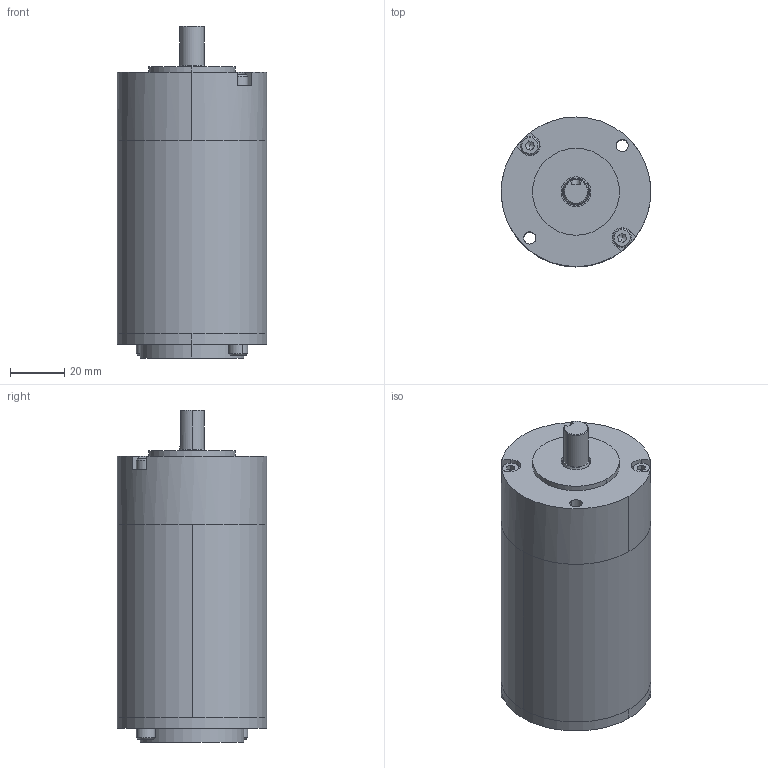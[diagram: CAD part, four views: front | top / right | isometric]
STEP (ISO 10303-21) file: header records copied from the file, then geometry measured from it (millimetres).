
FILE_DESCRIPTION (( 'STEP AP214' ), '1' );
FILE_NAME ('PA100-0.8 MS.STEP', '2013-11-21T09:42:05', ( '' ), ( '' ), 'SwSTEP 2.0', 'SolidWorks 2013', '' );
FILE_SCHEMA (( 'AUTOMOTIVE_DESIGN' ));
Length unit declared in the file: millimetre
Products named in the file (1): PA100-0.8 MS
Bounding box: 55 x 55 x 122 mm (x, y, z)
Surface area: 30392.5 mm2 (no closed solid volume)
Topology: 0 solids, 9 shells, 123 faces, 395 edges, 278 vertices
Faces by surface type: plane 55, cylinder 42, cone 21, bspline 5
Entity records: 6199 total; most frequent: CARTESIAN_POINT 1331, DIRECTION 731, ORIENTED_EDGE 656, EDGE_CURVE 387, VERTEX_POINT 278, AXIS2_PLACEMENT_3D 272, LINE 187, VECTOR 187
